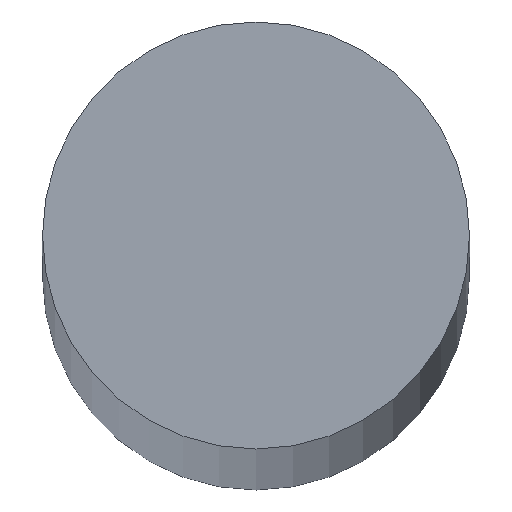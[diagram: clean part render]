
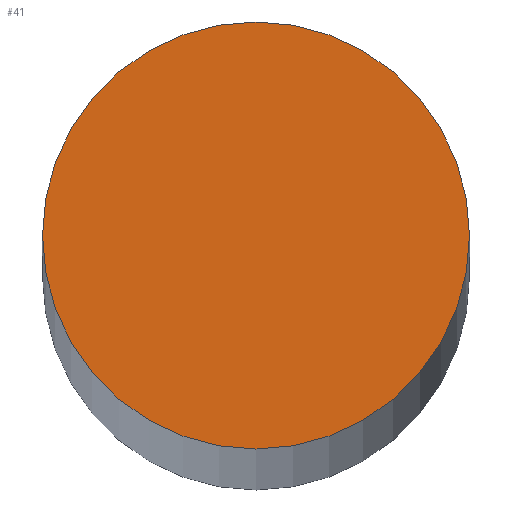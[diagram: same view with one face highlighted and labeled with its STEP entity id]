
A CAD part, top view. The second image highlights one B-rep face of the part: STEP entity #41.
In plain terms, the highlighted planar face has unit normal (0, 0, 1).
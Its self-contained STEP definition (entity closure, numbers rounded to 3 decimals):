
#16=PLANE('',#66);
#19=FACE_OUTER_BOUND('',#22,.T.);
#22=EDGE_LOOP('',(#37));
#25=CIRCLE('',#63,10.);
#27=VERTEX_POINT('',#82);
#29=EDGE_CURVE('',#27,#27,#25,.T.);
#37=ORIENTED_EDGE('',*,*,#29,.T.);
#41=ADVANCED_FACE('',(#19),#16,.T.);
#63=AXIS2_PLACEMENT_3D('',#83,#71,#72);
#66=AXIS2_PLACEMENT_3D('',#88,#78,#79);
#71=DIRECTION('center_axis',(0.,0.,1.));
#72=DIRECTION('ref_axis',(-1.,0.,0.));
#78=DIRECTION('center_axis',(0.,0.,1.));
#79=DIRECTION('ref_axis',(1.,0.,0.));
#82=CARTESIAN_POINT('',(10.,0.,1100.));
#83=CARTESIAN_POINT('Origin',(0.,0.,1100.));
#88=CARTESIAN_POINT('Origin',(0.,0.,1100.));
